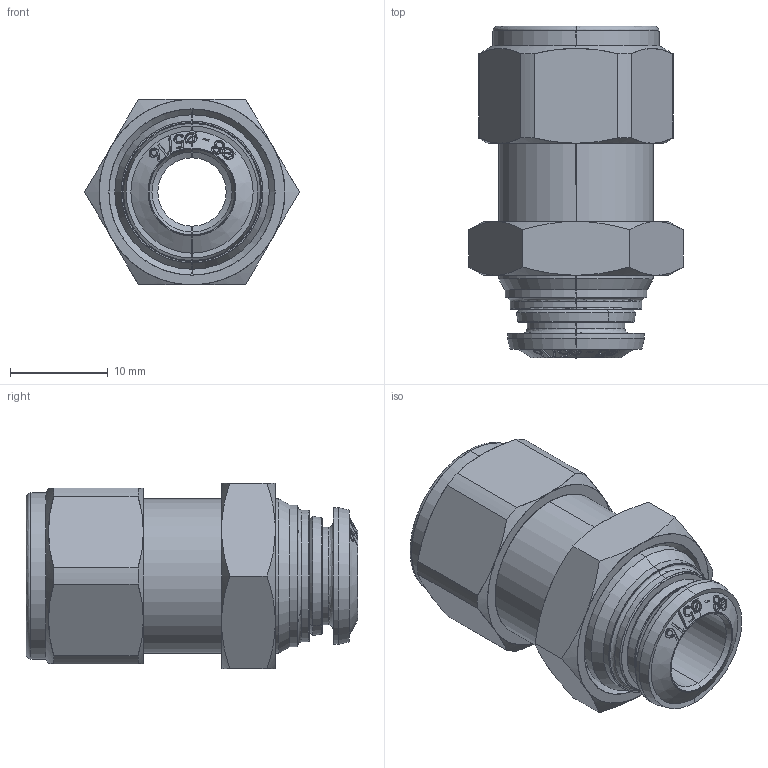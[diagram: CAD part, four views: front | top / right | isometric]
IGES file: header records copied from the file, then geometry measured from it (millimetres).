
Start section: SolidWorks IGES file using analytic representation for surfaces
Global section: file name: K:\Disegni Esecutivi\SERIE 50000\50055\Assiemi\IGES\5005500005.IGS; native system: SolidWorks 2016; preprocessor: SolidWorks 2016; author: cad06; date: 190522.115703; units: millimetre
Bounding box: 21.94 x 33.95 x 19 mm (x, y, z)
Surface area: 3584.7 mm2 (no closed solid volume)
Topology: 0 solids, 0 shells, 217 faces, 2461 edges, 2461 vertices
Faces by surface type: bspline 129, revolution 88
